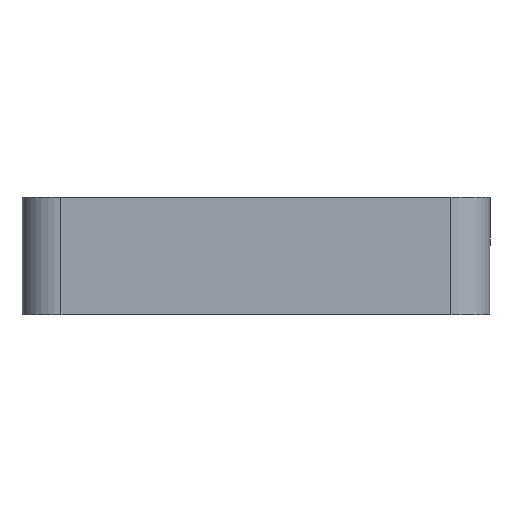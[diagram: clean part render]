
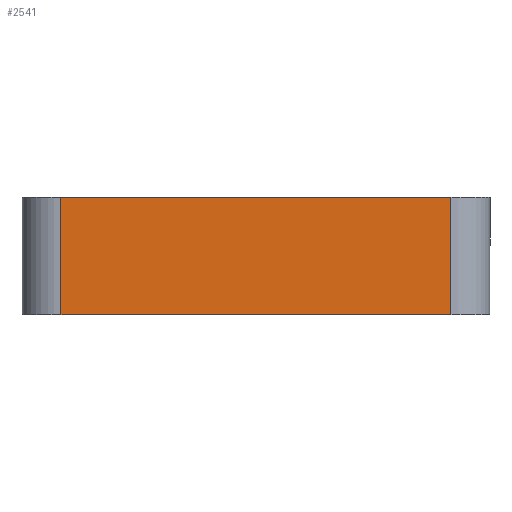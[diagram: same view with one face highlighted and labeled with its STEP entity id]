
A CAD part, left-side view. The second image highlights one B-rep face of the part: STEP entity #2541.
In plain terms, the highlighted planar face has unit normal (-1, 0, 0).
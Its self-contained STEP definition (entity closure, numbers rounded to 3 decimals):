
#110 = DIRECTION ( 'NONE',  ( 0., 1., 0. ) ) ;
#113 = DIRECTION ( 'NONE',  ( 0., 0., -1. ) ) ;
#139 = VECTOR ( 'NONE', #113, 1000. ) ;
#223 = DIRECTION ( 'NONE',  ( 0., 0., -1. ) ) ;
#351 = CARTESIAN_POINT ( 'NONE',  ( -38., 25., 15. ) ) ;
#380 = ORIENTED_EDGE ( 'NONE', *, *, #939, .T. ) ;
#452 = ORIENTED_EDGE ( 'NONE', *, *, #1825, .F. ) ;
#469 = VECTOR ( 'NONE', #223, 1000. ) ;
#619 = DIRECTION ( 'NONE',  ( 0., -1., 0. ) ) ;
#682 = LINE ( 'NONE', #1382, #469 ) ;
#751 = ORIENTED_EDGE ( 'NONE', *, *, #2498, .T. ) ;
#860 = VERTEX_POINT ( 'NONE', #1756 ) ;
#939 = EDGE_CURVE ( 'NONE', #994, #860, #2922, .T. ) ;
#994 = VERTEX_POINT ( 'NONE', #1823 ) ;
#1047 = PLANE ( 'NONE',  #1667 ) ;
#1139 = VERTEX_POINT ( 'NONE', #2128 ) ;
#1382 = CARTESIAN_POINT ( 'NONE',  ( -38., -25., 15. ) ) ;
#1667 = AXIS2_PLACEMENT_3D ( 'NONE', #2266, #2466, #110 ) ;
#1697 = ORIENTED_EDGE ( 'NONE', *, *, #1900, .F. ) ;
#1756 = CARTESIAN_POINT ( 'NONE',  ( -38., 25., 0. ) ) ;
#1823 = CARTESIAN_POINT ( 'NONE',  ( -38., 25., 15. ) ) ;
#1825 = EDGE_CURVE ( 'NONE', #994, #2298, #2724, .T. ) ;
#1829 = CARTESIAN_POINT ( 'NONE',  ( -38., 25., 15. ) ) ;
#1900 = EDGE_CURVE ( 'NONE', #2298, #1139, #682, .T. ) ;
#2037 = DIRECTION ( 'NONE',  ( 0., -1., 0. ) ) ;
#2128 = CARTESIAN_POINT ( 'NONE',  ( -38., -25., 0. ) ) ;
#2266 = CARTESIAN_POINT ( 'NONE',  ( -38., 25., 15. ) ) ;
#2298 = VERTEX_POINT ( 'NONE', #2859 ) ;
#2466 = DIRECTION ( 'NONE',  ( 1., 0., 0. ) ) ;
#2478 = LINE ( 'NONE', #2715, #2953 ) ;
#2498 = EDGE_CURVE ( 'NONE', #860, #1139, #2478, .T. ) ;
#2541 = ADVANCED_FACE ( 'NONE', ( #2948 ), #1047, .F. ) ;
#2572 = EDGE_LOOP ( 'NONE', ( #751, #1697, #452, #380 ) ) ;
#2715 = CARTESIAN_POINT ( 'NONE',  ( -38., 25., 0. ) ) ;
#2724 = LINE ( 'NONE', #1829, #2845 ) ;
#2845 = VECTOR ( 'NONE', #619, 1000. ) ;
#2859 = CARTESIAN_POINT ( 'NONE',  ( -38., -25., 15. ) ) ;
#2922 = LINE ( 'NONE', #351, #139 ) ;
#2948 = FACE_OUTER_BOUND ( 'NONE', #2572, .T. ) ;
#2953 = VECTOR ( 'NONE', #2037, 1000. ) ;
